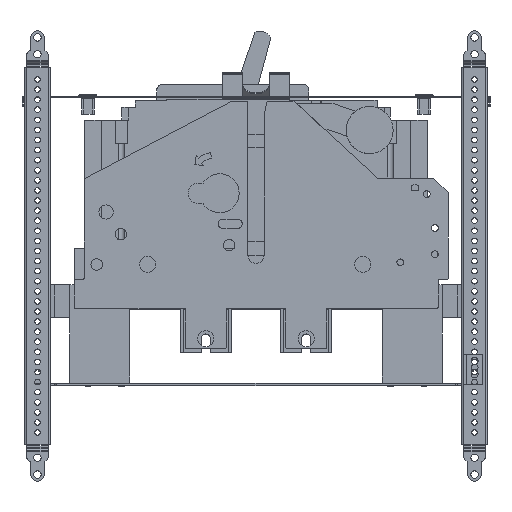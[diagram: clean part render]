
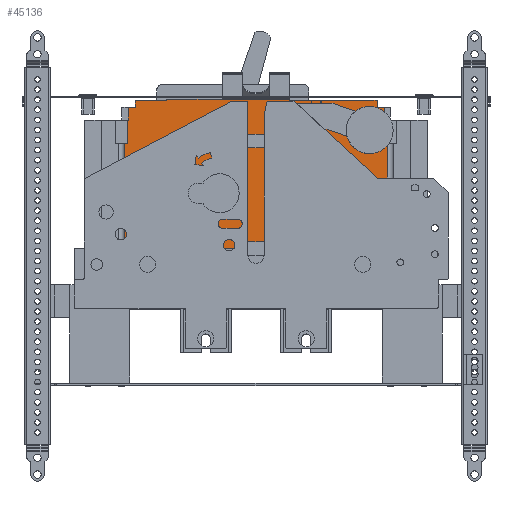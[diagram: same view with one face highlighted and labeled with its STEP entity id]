
A CAD part, left-side view. The second image highlights one B-rep face of the part: STEP entity #45136.
In plain terms, the highlighted planar face has unit normal (-1, 0, 0).
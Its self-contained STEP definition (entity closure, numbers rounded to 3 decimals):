
#42961=CARTESIAN_POINT(' ',(-214.311,-45.217,144.353));
#42966=DIRECTION(' ',(0.,1.,0.));
#42971=VECTOR(' ',#42966,1.);
#42976=LINE('',#42961,#42971);
#42981=CARTESIAN_POINT(' ',(-214.311,-45.217,144.353));
#42982=VERTEX_POINT(' ',#42981);
#42986=CARTESIAN_POINT(' ',(-214.311,-21.717,144.353));
#42987=VERTEX_POINT(' ',#42986);
#42991=EDGE_CURVE(' ',#42982,#42987,#42976,.T.);
#43531=CARTESIAN_POINT(' ',(-214.311,69.283,144.353));
#43532=VERTEX_POINT(' ',#43531);
#43676=CARTESIAN_POINT(' ',(-214.311,92.783,144.353));
#43677=VERTEX_POINT(' ',#43676);
#43691=CARTESIAN_POINT(' ',(-214.311,69.283,144.353));
#43696=DIRECTION(' ',(0.,1.,0.));
#43701=VECTOR(' ',#43696,1.);
#43706=LINE('',#43691,#43701);
#43711=EDGE_CURVE(' ',#43532,#43677,#43706,.T.);
#43886=CARTESIAN_POINT(' ',(-214.311,69.283,145.353));
#43891=DIRECTION(' ',(0.,0.,-1.));
#43896=VECTOR(' ',#43891,1.);
#43901=LINE('',#43886,#43896);
#43906=CARTESIAN_POINT(' ',(-214.311,69.283,145.353));
#43907=VERTEX_POINT(' ',#43906);
#43911=EDGE_CURVE(' ',#43907,#43532,#43901,.T.);
#43996=CARTESIAN_POINT(' ',(-214.311,69.283,145.353));
#44001=DIRECTION(' ',(0.,-1.,0.));
#44006=VECTOR(' ',#44001,1.);
#44011=LINE('',#43996,#44006);
#44016=CARTESIAN_POINT(' ',(-214.311,-21.717,145.353));
#44017=VERTEX_POINT(' ',#44016);
#44021=EDGE_CURVE(' ',#43907,#44017,#44011,.T.);
#44121=CARTESIAN_POINT(' ',(-214.311,-21.717,145.353));
#44126=DIRECTION(' ',(0.,0.,-1.));
#44131=VECTOR(' ',#44126,1.);
#44136=LINE('',#44121,#44131);
#44141=EDGE_CURVE(' ',#44017,#42987,#44136,.T.);
#44486=DIRECTION(' ',(-1.,0.,0.));
#44491=CARTESIAN_POINT(' ',(-214.311,-94.422,34.353));
#44496=DIRECTION(' ',(0.,-0.,1.));
#44501=AXIS2_PLACEMENT_3D(' ',#44491,#44486,#44496);
#44506=PLANE('NONE',#44501);
#44511=CARTESIAN_POINT(' ',(-214.311,-94.422,112.353));
#44516=DIRECTION(' ',(0.,1.,0.));
#44521=VECTOR(' ',#44516,1.);
#44526=LINE('',#44511,#44521);
#44531=CARTESIAN_POINT(' ',(-214.311,-94.422,112.353));
#44532=VERTEX_POINT(' ',#44531);
#44536=CARTESIAN_POINT(' ',(-214.311,-92.467,112.353));
#44537=VERTEX_POINT(' ',#44536);
#44541=EDGE_CURVE(' ',#44532,#44537,#44526,.T.);
#44546=ORIENTED_EDGE(' ',*,*,#44541,.T.);
#44551=CARTESIAN_POINT(' ',(-214.311,-92.467,139.353));
#44556=DIRECTION(' ',(0.,0.,-1.));
#44561=VECTOR(' ',#44556,1.);
#44566=LINE('',#44551,#44561);
#44571=CARTESIAN_POINT(' ',(-214.311,-92.467,139.353));
#44572=VERTEX_POINT(' ',#44571);
#44576=EDGE_CURVE(' ',#44572,#44537,#44566,.T.);
#44581=ORIENTED_EDGE(' ',*,*,#44576,.F.);
#44586=CARTESIAN_POINT(' ',(-214.311,-86.967,139.353));
#44591=DIRECTION(' ',(0.,-1.,0.));
#44596=VECTOR(' ',#44591,1.);
#44601=LINE('',#44586,#44596);
#44606=CARTESIAN_POINT(' ',(-214.311,-86.967,139.353));
#44607=VERTEX_POINT(' ',#44606);
#44611=EDGE_CURVE(' ',#44607,#44572,#44601,.T.);
#44616=ORIENTED_EDGE(' ',*,*,#44611,.F.);
#44621=CARTESIAN_POINT(' ',(-214.311,-86.967,144.753));
#44626=DIRECTION(' ',(0.,0.,-1.));
#44631=VECTOR(' ',#44626,1.);
#44636=LINE('',#44621,#44631);
#44641=CARTESIAN_POINT(' ',(-214.311,-86.967,144.753));
#44642=VERTEX_POINT(' ',#44641);
#44646=EDGE_CURVE(' ',#44642,#44607,#44636,.T.);
#44651=ORIENTED_EDGE(' ',*,*,#44646,.F.);
#44656=CARTESIAN_POINT(' ',(-214.311,-45.467,144.753));
#44661=DIRECTION(' ',(0.,-1.,0.));
#44666=VECTOR(' ',#44661,1.);
#44671=LINE('',#44656,#44666);
#44676=CARTESIAN_POINT(' ',(-214.311,-45.467,144.753));
#44677=VERTEX_POINT(' ',#44676);
#44681=EDGE_CURVE(' ',#44677,#44642,#44671,.T.);
#44686=ORIENTED_EDGE(' ',*,*,#44681,.F.);
#44691=CARTESIAN_POINT(' ',(-214.311,-45.467,129.853));
#44696=DIRECTION(' ',(0.,0.,1.));
#44701=VECTOR(' ',#44696,1.);
#44706=LINE('',#44691,#44701);
#44711=CARTESIAN_POINT(' ',(-214.311,-45.467,129.853));
#44712=VERTEX_POINT(' ',#44711);
#44716=EDGE_CURVE(' ',#44712,#44677,#44706,.T.);
#44721=ORIENTED_EDGE(' ',*,*,#44716,.F.);
#44726=CARTESIAN_POINT(' ',(-214.311,-45.217,129.853));
#44731=DIRECTION(' ',(0.,-1.,0.));
#44736=VECTOR(' ',#44731,1.);
#44741=LINE('',#44726,#44736);
#44746=CARTESIAN_POINT(' ',(-214.311,-45.217,129.853));
#44747=VERTEX_POINT(' ',#44746);
#44751=EDGE_CURVE(' ',#44747,#44712,#44741,.T.);
#44756=ORIENTED_EDGE(' ',*,*,#44751,.F.);
#44761=CARTESIAN_POINT(' ',(-214.311,-45.217,129.853));
#44766=DIRECTION(' ',(0.,0.,1.));
#44771=VECTOR(' ',#44766,1.);
#44776=LINE('',#44761,#44771);
#44781=EDGE_CURVE(' ',#44747,#42982,#44776,.T.);
#44786=ORIENTED_EDGE(' ',*,*,#44781,.T.);
#44791=ORIENTED_EDGE(' ',*,*,#42991,.T.);
#44796=ORIENTED_EDGE(' ',*,*,#44141,.F.);
#44801=ORIENTED_EDGE(' ',*,*,#44021,.F.);
#44806=ORIENTED_EDGE(' ',*,*,#43911,.T.);
#44811=ORIENTED_EDGE(' ',*,*,#43711,.T.);
#44816=CARTESIAN_POINT(' ',(-214.311,92.783,144.353));
#44821=DIRECTION(' ',(0.,0.,-1.));
#44826=VECTOR(' ',#44821,1.);
#44831=LINE('',#44816,#44826);
#44836=CARTESIAN_POINT(' ',(-214.311,92.783,139.353));
#44837=VERTEX_POINT(' ',#44836);
#44841=EDGE_CURVE(' ',#43677,#44837,#44831,.T.);
#44846=ORIENTED_EDGE(' ',*,*,#44841,.T.);
#44851=CARTESIAN_POINT(' ',(-214.311,92.783,139.353));
#44856=DIRECTION(' ',(0.,1.,0.));
#44861=VECTOR(' ',#44856,1.);
#44866=LINE('',#44851,#44861);
#44871=CARTESIAN_POINT(' ',(-214.311,98.033,139.353));
#44872=VERTEX_POINT(' ',#44871);
#44876=EDGE_CURVE(' ',#44837,#44872,#44866,.T.);
#44881=ORIENTED_EDGE(' ',*,*,#44876,.T.);
#44886=CARTESIAN_POINT(' ',(-214.311,98.033,139.353));
#44891=DIRECTION(' ',(0.,0.,-1.));
#44896=VECTOR(' ',#44891,1.);
#44901=LINE('',#44886,#44896);
#44906=CARTESIAN_POINT(' ',(-214.311,98.033,129.853));
#44907=VERTEX_POINT(' ',#44906);
#44911=EDGE_CURVE(' ',#44872,#44907,#44901,.T.);
#44916=ORIENTED_EDGE(' ',*,*,#44911,.T.);
#44921=CARTESIAN_POINT(' ',(-214.311,98.533,129.853));
#44926=DIRECTION(' ',(0.,-1.,0.));
#44931=VECTOR(' ',#44926,1.);
#44936=LINE('',#44921,#44931);
#44941=CARTESIAN_POINT(' ',(-214.311,98.533,129.853));
#44942=VERTEX_POINT(' ',#44941);
#44946=EDGE_CURVE(' ',#44942,#44907,#44936,.T.);
#44951=ORIENTED_EDGE(' ',*,*,#44946,.F.);
#44956=CARTESIAN_POINT(' ',(-214.311,98.533,129.853));
#44961=DIRECTION(' ',(0.,0.,-1.));
#44966=VECTOR(' ',#44961,1.);
#44971=LINE('',#44956,#44966);
#44976=CARTESIAN_POINT(' ',(-214.311,98.533,112.353));
#44977=VERTEX_POINT(' ',#44976);
#44981=EDGE_CURVE(' ',#44942,#44977,#44971,.T.);
#44986=ORIENTED_EDGE(' ',*,*,#44981,.T.);
#44991=CARTESIAN_POINT(' ',(-214.311,100.487,112.353));
#44996=DIRECTION(' ',(0.,-1.,0.));
#45001=VECTOR(' ',#44996,1.);
#45006=LINE('',#44991,#45001);
#45011=CARTESIAN_POINT(' ',(-214.311,100.487,112.353));
#45012=VERTEX_POINT(' ',#45011);
#45016=EDGE_CURVE(' ',#45012,#44977,#45006,.T.);
#45021=ORIENTED_EDGE(' ',*,*,#45016,.F.);
#45026=CARTESIAN_POINT(' ',(-214.311,100.487,112.353));
#45031=DIRECTION(' ',(0.,0.,-1.));
#45036=VECTOR(' ',#45031,1.);
#45041=LINE('',#45026,#45036);
#45046=CARTESIAN_POINT(' ',(-214.311,100.487,34.353));
#45047=VERTEX_POINT(' ',#45046);
#45051=EDGE_CURVE(' ',#45012,#45047,#45041,.T.);
#45056=ORIENTED_EDGE(' ',*,*,#45051,.T.);
#45061=CARTESIAN_POINT(' ',(-214.311,-94.422,34.353));
#45066=DIRECTION(' ',(0.,1.,0.));
#45071=VECTOR(' ',#45066,1.);
#45076=LINE('',#45061,#45071);
#45081=CARTESIAN_POINT(' ',(-214.311,-94.422,34.353));
#45082=VERTEX_POINT(' ',#45081);
#45086=EDGE_CURVE(' ',#45082,#45047,#45076,.T.);
#45091=ORIENTED_EDGE(' ',*,*,#45086,.F.);
#45096=CARTESIAN_POINT(' ',(-214.311,-94.422,34.353));
#45101=DIRECTION(' ',(0.,0.,1.));
#45106=VECTOR(' ',#45101,1.);
#45111=LINE('',#45096,#45106);
#45116=EDGE_CURVE(' ',#45082,#44532,#45111,.T.);
#45121=ORIENTED_EDGE(' ',*,*,#45116,.T.);
#45126=EDGE_LOOP(' ',(#44546,#44581,#44616,#44651,#44686,#44721,#44756,#44786,#44791,#44796,#44801,#44806,#44811,#44846,#44881,#44916,#44951,#44986,#45021,#45056,#45091,#45121));
#45131=FACE_OUTER_BOUND(' ',#45126,.T.);
#45136=ADVANCED_FACE('NONE',(#45131),#44506,.T.);
